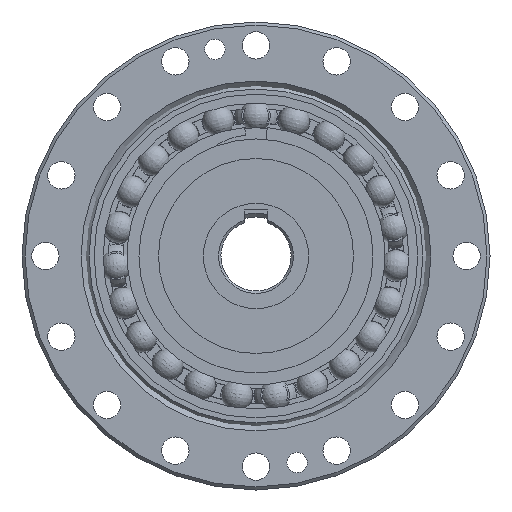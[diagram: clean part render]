
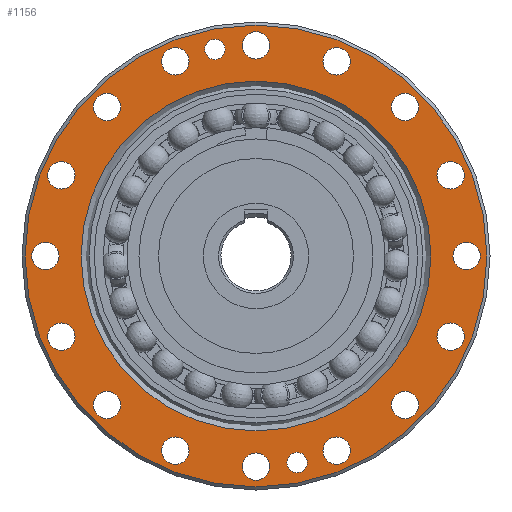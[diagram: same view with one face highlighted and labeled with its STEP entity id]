
A CAD part, left-side view. The second image highlights one B-rep face of the part: STEP entity #1156.
In plain terms, the highlighted planar face has unit normal (-1, 0, 0).
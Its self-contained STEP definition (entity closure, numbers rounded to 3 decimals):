
#958=PLANE('',#4801);
#1156=ADVANCED_FACE('',(#1423,#1424,#1425,#1426,#1427,#1428,#1429,#1430,
#1431,#1432,#1433,#1434,#1435,#1436,#1437,#1438,#1439,#1440,#1441,#1442),
#958,.F.);
#1423=FACE_BOUND('',#1805,.T.);
#1424=FACE_BOUND('',#1806,.T.);
#1425=FACE_BOUND('',#1807,.T.);
#1426=FACE_BOUND('',#1808,.T.);
#1427=FACE_BOUND('',#1809,.T.);
#1428=FACE_BOUND('',#1810,.T.);
#1429=FACE_BOUND('',#1811,.T.);
#1430=FACE_BOUND('',#1812,.T.);
#1431=FACE_BOUND('',#1813,.T.);
#1432=FACE_BOUND('',#1814,.T.);
#1433=FACE_BOUND('',#1815,.T.);
#1434=FACE_BOUND('',#1816,.T.);
#1435=FACE_BOUND('',#1817,.T.);
#1436=FACE_BOUND('',#1818,.T.);
#1437=FACE_BOUND('',#1819,.T.);
#1438=FACE_BOUND('',#1820,.T.);
#1439=FACE_BOUND('',#1821,.T.);
#1440=FACE_BOUND('',#1822,.T.);
#1441=FACE_BOUND('',#1823,.T.);
#1442=FACE_BOUND('',#1824,.T.);
#1805=EDGE_LOOP('',(#2866));
#1806=EDGE_LOOP('',(#2867));
#1807=EDGE_LOOP('',(#2868));
#1808=EDGE_LOOP('',(#2869));
#1809=EDGE_LOOP('',(#2870));
#1810=EDGE_LOOP('',(#2871));
#1811=EDGE_LOOP('',(#2872));
#1812=EDGE_LOOP('',(#2873));
#1813=EDGE_LOOP('',(#2874));
#1814=EDGE_LOOP('',(#2875));
#1815=EDGE_LOOP('',(#2876));
#1816=EDGE_LOOP('',(#2877));
#1817=EDGE_LOOP('',(#2878));
#1818=EDGE_LOOP('',(#2879));
#1819=EDGE_LOOP('',(#2880));
#1820=EDGE_LOOP('',(#2881));
#1821=EDGE_LOOP('',(#2882));
#1822=EDGE_LOOP('',(#2883));
#1823=EDGE_LOOP('',(#2884));
#1824=EDGE_LOOP('',(#2885));
#2866=ORIENTED_EDGE('',*,*,#3947,.T.);
#2867=ORIENTED_EDGE('',*,*,#3948,.T.);
#2868=ORIENTED_EDGE('',*,*,#3949,.T.);
#2869=ORIENTED_EDGE('',*,*,#3950,.T.);
#2870=ORIENTED_EDGE('',*,*,#3951,.T.);
#2871=ORIENTED_EDGE('',*,*,#3952,.T.);
#2872=ORIENTED_EDGE('',*,*,#3953,.T.);
#2873=ORIENTED_EDGE('',*,*,#3954,.T.);
#2874=ORIENTED_EDGE('',*,*,#3955,.T.);
#2875=ORIENTED_EDGE('',*,*,#3956,.T.);
#2876=ORIENTED_EDGE('',*,*,#3957,.T.);
#2877=ORIENTED_EDGE('',*,*,#3958,.T.);
#2878=ORIENTED_EDGE('',*,*,#3959,.T.);
#2879=ORIENTED_EDGE('',*,*,#3960,.T.);
#2880=ORIENTED_EDGE('',*,*,#3961,.T.);
#2881=ORIENTED_EDGE('',*,*,#3962,.T.);
#2882=ORIENTED_EDGE('',*,*,#3963,.T.);
#2883=ORIENTED_EDGE('',*,*,#3964,.T.);
#2884=ORIENTED_EDGE('',*,*,#3965,.T.);
#2885=ORIENTED_EDGE('',*,*,#3966,.T.);
#3380=VERTEX_POINT('',#9659);
#3381=VERTEX_POINT('',#9661);
#3382=VERTEX_POINT('',#9663);
#3383=VERTEX_POINT('',#9665);
#3384=VERTEX_POINT('',#9667);
#3385=VERTEX_POINT('',#9669);
#3386=VERTEX_POINT('',#9671);
#3387=VERTEX_POINT('',#9673);
#3388=VERTEX_POINT('',#9675);
#3389=VERTEX_POINT('',#9677);
#3390=VERTEX_POINT('',#9679);
#3391=VERTEX_POINT('',#9681);
#3392=VERTEX_POINT('',#9683);
#3393=VERTEX_POINT('',#9685);
#3394=VERTEX_POINT('',#9687);
#3395=VERTEX_POINT('',#9689);
#3396=VERTEX_POINT('',#9691);
#3397=VERTEX_POINT('',#9693);
#3398=VERTEX_POINT('',#9695);
#3399=VERTEX_POINT('',#9697);
#3947=EDGE_CURVE('',#3380,#3380,#4249,.T.);
#3948=EDGE_CURVE('',#3381,#3381,#4250,.T.);
#3949=EDGE_CURVE('',#3382,#3382,#4251,.T.);
#3950=EDGE_CURVE('',#3383,#3383,#4252,.T.);
#3951=EDGE_CURVE('',#3384,#3384,#4253,.T.);
#3952=EDGE_CURVE('',#3385,#3385,#4254,.T.);
#3953=EDGE_CURVE('',#3386,#3386,#4255,.T.);
#3954=EDGE_CURVE('',#3387,#3387,#4256,.T.);
#3955=EDGE_CURVE('',#3388,#3388,#4257,.T.);
#3956=EDGE_CURVE('',#3389,#3389,#4258,.T.);
#3957=EDGE_CURVE('',#3390,#3390,#4259,.T.);
#3958=EDGE_CURVE('',#3391,#3391,#4260,.T.);
#3959=EDGE_CURVE('',#3392,#3392,#4261,.T.);
#3960=EDGE_CURVE('',#3393,#3393,#4262,.T.);
#3961=EDGE_CURVE('',#3394,#3394,#4263,.T.);
#3962=EDGE_CURVE('',#3395,#3395,#4264,.T.);
#3963=EDGE_CURVE('',#3396,#3396,#4265,.T.);
#3964=EDGE_CURVE('',#3397,#3397,#4266,.T.);
#3965=EDGE_CURVE('',#3398,#3398,#4267,.T.);
#3966=EDGE_CURVE('',#3399,#3399,#4268,.T.);
#4249=CIRCLE('',#4781,22.425);
#4250=CIRCLE('',#4782,29.6);
#4251=CIRCLE('',#4783,1.3);
#4252=CIRCLE('',#4784,1.3);
#4253=CIRCLE('',#4785,1.75);
#4254=CIRCLE('',#4786,1.75);
#4255=CIRCLE('',#4787,1.75);
#4256=CIRCLE('',#4788,1.75);
#4257=CIRCLE('',#4789,1.75);
#4258=CIRCLE('',#4790,1.75);
#4259=CIRCLE('',#4791,1.75);
#4260=CIRCLE('',#4792,1.75);
#4261=CIRCLE('',#4793,1.75);
#4262=CIRCLE('',#4794,1.75);
#4263=CIRCLE('',#4795,1.75);
#4264=CIRCLE('',#4796,1.75);
#4265=CIRCLE('',#4797,1.75);
#4266=CIRCLE('',#4798,1.75);
#4267=CIRCLE('',#4799,1.75);
#4268=CIRCLE('',#4800,1.75);
#4781=AXIS2_PLACEMENT_3D('',#9658,#5750,#5751);
#4782=AXIS2_PLACEMENT_3D('',#9660,#5752,#5753);
#4783=AXIS2_PLACEMENT_3D('',#9662,#5754,#5755);
#4784=AXIS2_PLACEMENT_3D('',#9664,#5756,#5757);
#4785=AXIS2_PLACEMENT_3D('',#9666,#5758,#5759);
#4786=AXIS2_PLACEMENT_3D('',#9668,#5760,#5761);
#4787=AXIS2_PLACEMENT_3D('',#9670,#5762,#5763);
#4788=AXIS2_PLACEMENT_3D('',#9672,#5764,#5765);
#4789=AXIS2_PLACEMENT_3D('',#9674,#5766,#5767);
#4790=AXIS2_PLACEMENT_3D('',#9676,#5768,#5769);
#4791=AXIS2_PLACEMENT_3D('',#9678,#5770,#5771);
#4792=AXIS2_PLACEMENT_3D('',#9680,#5772,#5773);
#4793=AXIS2_PLACEMENT_3D('',#9682,#5774,#5775);
#4794=AXIS2_PLACEMENT_3D('',#9684,#5776,#5777);
#4795=AXIS2_PLACEMENT_3D('',#9686,#5778,#5779);
#4796=AXIS2_PLACEMENT_3D('',#9688,#5780,#5781);
#4797=AXIS2_PLACEMENT_3D('',#9690,#5782,#5783);
#4798=AXIS2_PLACEMENT_3D('',#9692,#5784,#5785);
#4799=AXIS2_PLACEMENT_3D('',#9694,#5786,#5787);
#4800=AXIS2_PLACEMENT_3D('',#9696,#5788,#5789);
#4801=AXIS2_PLACEMENT_3D('',#9698,#5790,#5791);
#5750=DIRECTION('',(1.,0.,0.));
#5751=DIRECTION('',(0.,0.,-1.));
#5752=DIRECTION('',(-1.,0.,0.));
#5753=DIRECTION('',(0.,0.,-1.));
#5754=DIRECTION('',(1.,0.,0.));
#5755=DIRECTION('',(0.,0.,-1.));
#5756=DIRECTION('',(1.,0.,0.));
#5757=DIRECTION('',(0.,0.,-1.));
#5758=DIRECTION('',(1.,0.,0.));
#5759=DIRECTION('',(0.,0.,-1.));
#5760=DIRECTION('',(1.,0.,0.));
#5761=DIRECTION('',(0.,0.,-1.));
#5762=DIRECTION('',(1.,0.,0.));
#5763=DIRECTION('',(0.,0.,-1.));
#5764=DIRECTION('',(1.,0.,0.));
#5765=DIRECTION('',(0.,0.,-1.));
#5766=DIRECTION('',(1.,0.,0.));
#5767=DIRECTION('',(0.,0.,-1.));
#5768=DIRECTION('',(1.,0.,0.));
#5769=DIRECTION('',(0.,0.,-1.));
#5770=DIRECTION('',(1.,0.,0.));
#5771=DIRECTION('',(0.,0.,-1.));
#5772=DIRECTION('',(1.,0.,0.));
#5773=DIRECTION('',(0.,0.,-1.));
#5774=DIRECTION('',(1.,0.,0.));
#5775=DIRECTION('',(0.,0.,-1.));
#5776=DIRECTION('',(1.,0.,0.));
#5777=DIRECTION('',(0.,0.,-1.));
#5778=DIRECTION('',(1.,0.,0.));
#5779=DIRECTION('',(0.,0.,-1.));
#5780=DIRECTION('',(1.,0.,0.));
#5781=DIRECTION('',(0.,0.,-1.));
#5782=DIRECTION('',(1.,0.,0.));
#5783=DIRECTION('',(0.,0.,-1.));
#5784=DIRECTION('',(1.,0.,0.));
#5785=DIRECTION('',(0.,0.,-1.));
#5786=DIRECTION('',(1.,0.,0.));
#5787=DIRECTION('',(0.,0.,-1.));
#5788=DIRECTION('',(1.,0.,0.));
#5789=DIRECTION('',(0.,0.,-1.));
#5790=DIRECTION('',(1.,0.,0.));
#5791=DIRECTION('',(0.,0.,-1.));
#9658=CARTESIAN_POINT('',(0.,0.,0.));
#9659=CARTESIAN_POINT('',(0.,0.,-22.425));
#9660=CARTESIAN_POINT('',(0.,0.,0.));
#9661=CARTESIAN_POINT('',(0.,0.,-29.6));
#9662=CARTESIAN_POINT('',(0.,-5.267,-26.481));
#9663=CARTESIAN_POINT('',(0.,-5.267,-27.781));
#9664=CARTESIAN_POINT('',(0.,5.267,26.481));
#9665=CARTESIAN_POINT('',(0.,5.267,25.181));
#9666=CARTESIAN_POINT('',(0.,-19.092,19.092));
#9667=CARTESIAN_POINT('',(0.,-19.092,17.342));
#9668=CARTESIAN_POINT('',(0.,-10.332,24.945));
#9669=CARTESIAN_POINT('',(0.,-10.332,23.195));
#9670=CARTESIAN_POINT('',(0.,0.,27.));
#9671=CARTESIAN_POINT('',(0.,0.,25.25));
#9672=CARTESIAN_POINT('',(0.,10.332,24.945));
#9673=CARTESIAN_POINT('',(0.,10.332,23.195));
#9674=CARTESIAN_POINT('',(0.,19.092,19.092));
#9675=CARTESIAN_POINT('',(0.,19.092,17.342));
#9676=CARTESIAN_POINT('',(0.,24.945,10.332));
#9677=CARTESIAN_POINT('',(0.,24.945,8.582));
#9678=CARTESIAN_POINT('',(0.,27.,0.));
#9679=CARTESIAN_POINT('',(0.,27.,-1.75));
#9680=CARTESIAN_POINT('',(0.,24.945,-10.332));
#9681=CARTESIAN_POINT('',(0.,24.945,-12.082));
#9682=CARTESIAN_POINT('',(0.,19.092,-19.092));
#9683=CARTESIAN_POINT('',(0.,19.092,-20.842));
#9684=CARTESIAN_POINT('',(0.,10.332,-24.945));
#9685=CARTESIAN_POINT('',(0.,10.332,-26.695));
#9686=CARTESIAN_POINT('',(0.,0.,-27.));
#9687=CARTESIAN_POINT('',(0.,0.,-28.75));
#9688=CARTESIAN_POINT('',(0.,-10.332,-24.945));
#9689=CARTESIAN_POINT('',(0.,-10.332,-26.695));
#9690=CARTESIAN_POINT('',(0.,-19.092,-19.092));
#9691=CARTESIAN_POINT('',(0.,-19.092,-20.842));
#9692=CARTESIAN_POINT('',(0.,-24.945,-10.332));
#9693=CARTESIAN_POINT('',(0.,-24.945,-12.082));
#9694=CARTESIAN_POINT('',(0.,-27.,0.));
#9695=CARTESIAN_POINT('',(0.,-27.,-1.75));
#9696=CARTESIAN_POINT('',(0.,-24.945,10.332));
#9697=CARTESIAN_POINT('',(0.,-24.945,8.582));
#9698=CARTESIAN_POINT('',(0.,0.,30.));
